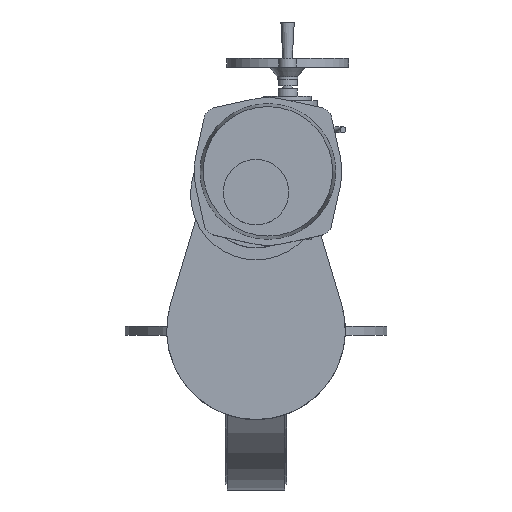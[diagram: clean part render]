
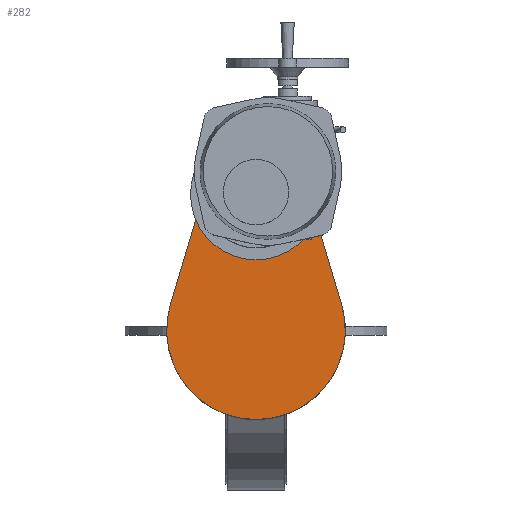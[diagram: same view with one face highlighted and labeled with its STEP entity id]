
A CAD part, top view. The second image highlights one B-rep face of the part: STEP entity #282.
In plain terms, the highlighted planar face has unit normal (0, 0, 1).
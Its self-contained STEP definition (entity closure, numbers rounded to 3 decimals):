
#282=ADVANCED_FACE('',(#2134),#2136,.F.);
#2134=FACE_BOUND('',#2135,.T.);
#2135=EDGE_LOOP('',(#3642,#3643,#3644,#3645,#3646));
#2136=PLANE('',#2137);
#2137=AXIS2_PLACEMENT_3D('',#2138,#2139,#2140);
#2138=CARTESIAN_POINT('',(20.,266.,511.));
#2139=DIRECTION('',(0.,0.,-1.));
#2140=DIRECTION('',(0.,1.,0.));
#3642=ORIENTED_EDGE('',*,*,#4431,.T.);
#3643=ORIENTED_EDGE('',*,*,#4432,.T.);
#3644=ORIENTED_EDGE('',*,*,#4433,.F.);
#3645=ORIENTED_EDGE('',*,*,#4397,.F.);
#3646=ORIENTED_EDGE('',*,*,#4434,.F.);
#4397=EDGE_CURVE('',#4839,#4840,#4841,.T.);
#4431=EDGE_CURVE('',#4907,#4908,#4909,.F.);
#4432=EDGE_CURVE('',#4908,#4910,#4911,.F.);
#4433=EDGE_CURVE('',#4840,#4910,#4912,.T.);
#4434=EDGE_CURVE('',#4907,#4839,#4913,.T.);
#4839=VERTEX_POINT('',#5667);
#4840=VERTEX_POINT('',#5668);
#4841=CIRCLE('',#5669,150.);
#4907=VERTEX_POINT('',#5958);
#4908=VERTEX_POINT('',#5959);
#4909=CIRCLE('',#5960,85.);
#4910=VERTEX_POINT('',#5964);
#4911=CIRCLE('',#5965,85.);
#4912=LINE('',#5969,#5970);
#4913=LINE('',#5972,#5973);
#5667=CARTESIAN_POINT('',(143.775,42.763,511.));
#5668=CARTESIAN_POINT('',(-143.775,42.763,511.));
#5669=AXIS2_PLACEMENT_3D('',#5670,#5671,#5672);
#5670=CARTESIAN_POINT('',(0.,0.,511.));
#5671=DIRECTION('',(0.,0.,-1.));
#5672=DIRECTION('',(0.959,0.285,0.));
#5958=CARTESIAN_POINT('',(81.473,252.232,511.));
#5959=CARTESIAN_POINT('',(0.,143.,511.));
#5960=AXIS2_PLACEMENT_3D('',#5961,#5962,#5963);
#5961=CARTESIAN_POINT('',(0.,228.,511.));
#5962=DIRECTION('',(0.,0.,1.));
#5963=DIRECTION('',(0.,-1.,0.));
#5964=CARTESIAN_POINT('',(-81.473,252.232,511.));
#5965=AXIS2_PLACEMENT_3D('',#5966,#5967,#5968);
#5966=CARTESIAN_POINT('',(0.,228.,511.));
#5967=DIRECTION('',(0.,0.,1.));
#5968=DIRECTION('',(-0.959,0.285,0.));
#5969=CARTESIAN_POINT('',(-143.775,42.763,511.));
#5970=VECTOR('',#5971,1.);
#5971=DIRECTION('',(0.285,0.959,0.));
#5972=CARTESIAN_POINT('',(81.473,252.232,511.));
#5973=VECTOR('',#5974,1.);
#5974=DIRECTION('',(0.285,-0.959,0.));
